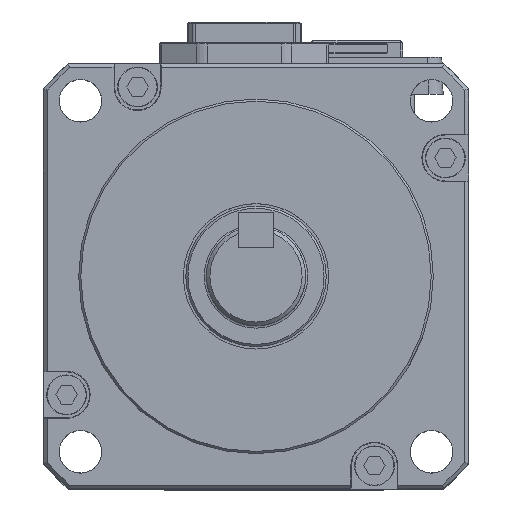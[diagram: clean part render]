
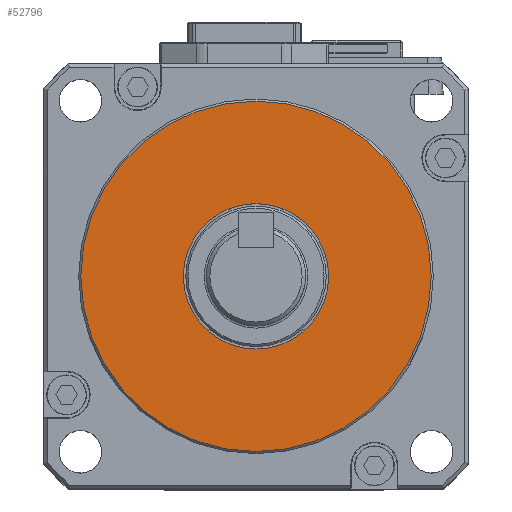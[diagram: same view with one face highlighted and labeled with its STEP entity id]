
A CAD part, top view. The second image highlights one B-rep face of the part: STEP entity #52796.
In plain terms, the highlighted planar face has unit normal (0, 0, 1).
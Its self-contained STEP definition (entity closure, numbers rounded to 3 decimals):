
#1902 = EDGE_LOOP ( 'NONE', ( #21870 ) ) ;
#2978 = DIRECTION ( 'NONE',  ( 1., 0., 0. ) ) ;
#7807 = VERTEX_POINT ( 'NONE', #29357 ) ;
#9231 = EDGE_LOOP ( 'NONE', ( #11341 ) ) ;
#9895 = CARTESIAN_POINT ( 'NONE',  ( 0., 0., 10. ) ) ;
#11341 = ORIENTED_EDGE ( 'NONE', *, *, #38830, .F. ) ;
#15899 = AXIS2_PLACEMENT_3D ( 'NONE', #9895, #43430, #64672 ) ;
#18939 = DIRECTION ( 'NONE',  ( 0., 0., 1. ) ) ;
#20346 = FACE_OUTER_BOUND ( 'NONE', #1902, .T. ) ;
#21014 = AXIS2_PLACEMENT_3D ( 'NONE', #29566, #18939, #40561 ) ;
#21870 = ORIENTED_EDGE ( 'NONE', *, *, #36360, .T. ) ;
#29357 = CARTESIAN_POINT ( 'NONE',  ( 10.25, 0., 10. ) ) ;
#29566 = CARTESIAN_POINT ( 'NONE',  ( 0., 0., 10. ) ) ;
#34874 = PLANE ( 'NONE',  #21014 ) ;
#36360 = EDGE_CURVE ( 'NONE', #67881, #67881, #41545, .T. ) ;
#38830 = EDGE_CURVE ( 'NONE', #7807, #7807, #41824, .T. ) ;
#40561 = DIRECTION ( 'NONE',  ( 1., 0., 0. ) ) ;
#41545 = CIRCLE ( 'NONE', #58543, 24.7 ) ;
#41824 = CIRCLE ( 'NONE', #15899, 10.25 ) ;
#43430 = DIRECTION ( 'NONE',  ( 0., 0., 1. ) ) ;
#52796 = ADVANCED_FACE ( 'NONE', ( #20346, #68454 ), #34874, .T. ) ;
#54607 = DIRECTION ( 'NONE',  ( 0., 0., 1. ) ) ;
#58543 = AXIS2_PLACEMENT_3D ( 'NONE', #59184, #54607, #2978 ) ;
#59184 = CARTESIAN_POINT ( 'NONE',  ( 0., 0., 10. ) ) ;
#62553 = CARTESIAN_POINT ( 'NONE',  ( 24.7, 0., 10. ) ) ;
#64672 = DIRECTION ( 'NONE',  ( 1., 0., 0. ) ) ;
#67881 = VERTEX_POINT ( 'NONE', #62553 ) ;
#68454 = FACE_BOUND ( 'NONE', #9231, .T. ) ;
